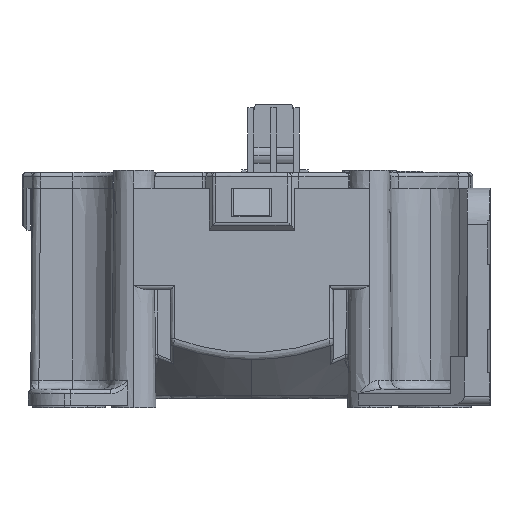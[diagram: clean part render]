
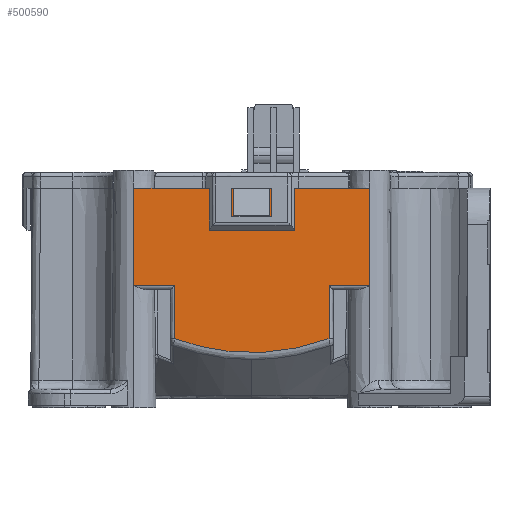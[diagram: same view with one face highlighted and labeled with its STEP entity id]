
A CAD part, left-side view. The second image highlights one B-rep face of the part: STEP entity #500590.
In plain terms, the highlighted planar face has unit normal (-1, 0, 0.009).
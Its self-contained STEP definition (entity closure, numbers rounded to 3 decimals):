
#329460=CARTESIAN_POINT('',(-23.484,-7.107,
1.427));
#329470=DIRECTION('',(-0.009,0.,-1.));
#329480=VECTOR('',#329470,265.057);
#329490=LINE('',#329460,#329480);
#329520=CARTESIAN_POINT('',(-23.391,-7.107,
12.075));
#329530=VERTEX_POINT('',#329520);
#361280=CARTESIAN_POINT('',(-23.484,-7.107,
1.333));
#361290=VERTEX_POINT('',#361280);
#361320=EDGE_CURVE('',#329530,#361290,#329490,.T.);
#381380=CARTESIAN_POINT('',(-23.484,18.907,
1.427));
#381390=DIRECTION('',(-0.009,0.,-1.));
#381400=VECTOR('',#381390,265.057);
#381410=LINE('',#381380,#381400);
#381420=CARTESIAN_POINT('',(-23.391,18.907,
12.075));
#381430=VERTEX_POINT('',#381420);
#381460=CARTESIAN_POINT('',(-23.484,18.907,
1.333));
#381470=VERTEX_POINT('',#381460);
#381480=EDGE_CURVE('',#381430,#381470,#381410,.T.);
#388580=CARTESIAN_POINT('',(-23.391,-13.91,
12.075));
#388590=DIRECTION('',(0.,1.,0.));
#388600=VECTOR('',#388590,1.);
#388610=LINE('',#388580,#388600);
#388620=CARTESIAN_POINT('',(-23.391,3.9,
12.075));
#388630=VERTEX_POINT('',#388620);
#388640=EDGE_CURVE('',#329530,#388630,#388610,.T.);
#388860=CARTESIAN_POINT('',(-23.391,7.9,
12.075));
#388870=VERTEX_POINT('',#388860);
#388900=EDGE_CURVE('',#388870,#381430,#388610,.T.);
#448720=CARTESIAN_POINT('',(-23.484,-2.622,
1.333));
#448730=VERTEX_POINT('',#448720);
#448760=CARTESIAN_POINT('',(-23.484,-2.622,
1.333));
#448770=DIRECTION('',(0.,-1.,0.));
#448780=VECTOR('',#448770,0.897);
#448790=LINE('',#448760,#448780);
#448800=EDGE_CURVE('',#448730,#361290,#448790,.T.);
#456570=CARTESIAN_POINT('',(-23.484,14.422,
1.333));
#456580=VERTEX_POINT('',#456570);
#456610=CARTESIAN_POINT('',(-23.484,14.422,
1.333));
#456620=DIRECTION('',(-0.009,0.,-1.));
#456630=VECTOR('',#456620,0.897);
#456640=LINE('',#456610,#456630);
#456650=CARTESIAN_POINT('',(-23.535,14.422,
-4.514));
#456660=VERTEX_POINT('',#456650);
#456670=EDGE_CURVE('',#456580,#456660,#456640,.T.);
#465390=CARTESIAN_POINT('',(-23.693,3.9,
-22.575));
#465400=DIRECTION('',(0.009,0.,1.));
#465410=VECTOR('',#465400,1.);
#465420=LINE('',#465390,#465410);
#465430=CARTESIAN_POINT('',(-23.417,3.9,
9.075));
#465440=VERTEX_POINT('',#465430);
#465450=EDGE_CURVE('',#465440,#388630,#465420,.T.);
#471210=CARTESIAN_POINT('',(-23.417,7.9,
9.075));
#471220=VERTEX_POINT('',#471210);
#471250=CARTESIAN_POINT('',(-23.693,7.9,
-22.575));
#471260=DIRECTION('',(-0.009,0.,-1.));
#471270=VECTOR('',#471260,1.);
#471280=LINE('',#471250,#471270);
#471290=EDGE_CURVE('',#388870,#471220,#471280,.T.);
#478540=CARTESIAN_POINT('',(-23.535,-2.622,
-4.514));
#478550=VERTEX_POINT('',#478540);
#478580=CARTESIAN_POINT('',(-23.484,-2.622,
1.333));
#478590=DIRECTION('',(-0.009,0.,-1.));
#478600=VECTOR('',#478590,0.897);
#478610=LINE('',#478580,#478600);
#478620=EDGE_CURVE('',#448730,#478550,#478610,.T.);
#489660=CARTESIAN_POINT('',(-23.535,-2.622,
-4.514));
#489670=CARTESIAN_POINT('',(-23.536,-2.565,
-4.534));
#489680=CARTESIAN_POINT('',(-23.536,-2.508,
-4.554));
#489690=CARTESIAN_POINT('',(-23.536,-2.452,
-4.574));
#489700=CARTESIAN_POINT('',(-23.536,-2.392,
-4.595));
#489710=CARTESIAN_POINT('',(-23.536,-2.332,
-4.615));
#489720=CARTESIAN_POINT('',(-23.538,-1.832,
-4.784));
#489730=CARTESIAN_POINT('',(-23.539,-1.39,
-4.924));
#489740=CARTESIAN_POINT('',(-23.541,-0.722,
-5.117));
#489750=CARTESIAN_POINT('',(-23.541,-0.498,
-5.179));
#489760=CARTESIAN_POINT('',(-23.542,-0.05,
-5.297));
#489770=CARTESIAN_POINT('',(-23.543,0.175,
-5.353));
#489780=CARTESIAN_POINT('',(-23.544,0.626,
-5.459));
#489790=CARTESIAN_POINT('',(-23.544,0.852,
-5.509));
#489800=CARTESIAN_POINT('',(-23.545,1.305,
-5.603));
#489810=CARTESIAN_POINT('',(-23.545,1.532,
-5.647));
#489820=CARTESIAN_POINT('',(-23.546,1.987,
-5.729));
#489830=CARTESIAN_POINT('',(-23.546,2.215,
-5.767));
#489840=CARTESIAN_POINT('',(-23.547,2.672,
-5.836));
#489850=CARTESIAN_POINT('',(-23.547,2.902,
-5.867));
#489860=CARTESIAN_POINT('',(-23.548,3.361,
-5.923));
#489870=CARTESIAN_POINT('',(-23.548,3.591,
-5.947));
#489880=CARTESIAN_POINT('',(-23.548,4.051,
-5.989));
#489890=CARTESIAN_POINT('',(-23.548,4.282,
-6.007));
#489900=CARTESIAN_POINT('',(-23.549,4.743,
-6.035));
#489910=CARTESIAN_POINT('',(-23.549,4.974,
-6.046));
#489920=CARTESIAN_POINT('',(-23.549,5.436,
-6.06));
#489930=CARTESIAN_POINT('',(-23.549,5.667,
-6.063));
#489940=CARTESIAN_POINT('',(-23.549,6.13,
-6.063));
#489950=CARTESIAN_POINT('',(-23.549,6.361,
-6.06));
#489960=CARTESIAN_POINT('',(-23.549,6.823,
-6.046));
#489970=CARTESIAN_POINT('',(-23.549,7.054,
-6.035));
#489980=CARTESIAN_POINT('',(-23.548,7.516,
-6.007));
#489990=CARTESIAN_POINT('',(-23.548,7.746,
-5.989));
#490000=CARTESIAN_POINT('',(-23.548,8.207,
-5.947));
#490010=CARTESIAN_POINT('',(-23.548,8.437,
-5.923));
#490020=CARTESIAN_POINT('',(-23.547,8.896,
-5.867));
#490030=CARTESIAN_POINT('',(-23.547,9.125,
-5.836));
#490040=CARTESIAN_POINT('',(-23.546,9.582,
-5.767));
#490050=CARTESIAN_POINT('',(-23.546,9.811,
-5.73));
#490060=CARTESIAN_POINT('',(-23.545,10.266,
-5.648));
#490070=CARTESIAN_POINT('',(-23.545,10.493,
-5.604));
#490080=CARTESIAN_POINT('',(-23.544,10.946,
-5.51));
#490090=CARTESIAN_POINT('',(-23.544,11.171,
-5.46));
#490100=CARTESIAN_POINT('',(-23.543,11.622,
-5.353));
#490110=CARTESIAN_POINT('',(-23.542,11.847,
-5.297));
#490120=CARTESIAN_POINT('',(-23.541,12.296,
-5.179));
#490130=CARTESIAN_POINT('',(-23.541,12.519,
-5.118));
#490140=CARTESIAN_POINT('',(-23.539,13.187,
-4.925));
#490150=CARTESIAN_POINT('',(-23.538,13.63,
-4.785));
#490160=CARTESIAN_POINT('',(-23.536,14.13,
-4.616));
#490170=CARTESIAN_POINT('',(-23.536,14.191,
-4.595));
#490180=CARTESIAN_POINT('',(-23.536,14.252,
-4.574));
#490190=CARTESIAN_POINT('',(-23.536,14.308,
-4.554));
#490200=CARTESIAN_POINT('',(-23.536,14.365,
-4.534));
#490210=CARTESIAN_POINT('',(-23.535,14.422,
-4.514));
#490220=B_SPLINE_CURVE_WITH_KNOTS('',3,(#489660,#489670,#489680,#489690,
#489700,#489710,#489720,#489730,#489740,#489750,#489760,#489770,#489780,
#489790,#489800,#489810,#489820,#489830,#489840,#489850,#489860,#489870,
#489880,#489890,#489900,#489910,#489920,#489930,#489940,#489950,#489960,
#489970,#489980,#489990,#490000,#490010,#490020,#490030,#490040,#490050,
#490060,#490070,#490080,#490090,#490100,#490110,#490120,#490130,#490140,
#490150,#490160,#490170,#490180,#490190,#490200,#490210),.UNSPECIFIED.,
.F.,.F.,(4,3,2,2,2,2,2,2,2,2,2,2,2,2,2,2,2,2,2,2,2,2,2,2,2,3,4),(
51.807,51.918,52.133,53.704,54.491,
55.277,56.062,56.847,57.633,58.419,
59.205,59.991,60.777,61.563,62.349,
63.135,63.921,64.707,65.493,66.278,
67.064,67.849,68.635,69.421,70.993,
71.21,71.321),.UNSPECIFIED.);
#490230=EDGE_CURVE('',#478550,#456660,#490220,.T.);
#500300=CARTESIAN_POINT('',(-23.413,-7.107,
9.493));
#500310=DIRECTION('',(-1.,0.,0.009));
#500320=DIRECTION('',(0.009,0.,1.));
#500330=AXIS2_PLACEMENT_3D('',#500300,#500310,#500320);
#500340=PLANE('',#500330);
#500350=ORIENTED_EDGE('',*,*,#478620,.F.);
#500360=ORIENTED_EDGE('',*,*,#490230,.F.);
#500370=ORIENTED_EDGE('',*,*,#456670,.T.);
#500380=CARTESIAN_POINT('',(-23.484,18.907,
1.333));
#500390=DIRECTION('',(0.,-1.,0.));
#500400=VECTOR('',#500390,0.897);
#500410=LINE('',#500380,#500400);
#500420=EDGE_CURVE('',#381470,#456580,#500410,.T.);
#500430=ORIENTED_EDGE('',*,*,#500420,.T.);
#500440=ORIENTED_EDGE('',*,*,#381480,.T.);
#500450=ORIENTED_EDGE('',*,*,#388900,.T.);
#500460=ORIENTED_EDGE('',*,*,#471290,.F.);
#500470=CARTESIAN_POINT('',(-23.417,-13.91,
9.075));
#500480=DIRECTION('',(0.,1.,0.));
#500490=VECTOR('',#500480,1.);
#500500=LINE('',#500470,#500490);
#500510=EDGE_CURVE('',#465440,#471220,#500500,.T.);
#500520=ORIENTED_EDGE('',*,*,#500510,.T.);
#500530=ORIENTED_EDGE('',*,*,#465450,.F.);
#500540=ORIENTED_EDGE('',*,*,#388640,.T.);
#500550=ORIENTED_EDGE('',*,*,#361320,.F.);
#500560=ORIENTED_EDGE('',*,*,#448800,.T.);
#500570=EDGE_LOOP('',(#500560,#500550,#500540,#500530,#500520,#500460,
#500450,#500440,#500430,#500370,#500360,#500350));
#500580=FACE_OUTER_BOUND('',#500570,.T.);
#500590=ADVANCED_FACE('',(#500580),#500340,.T.);
